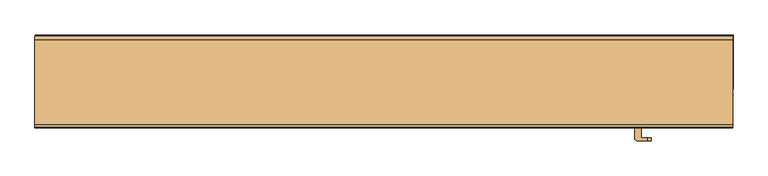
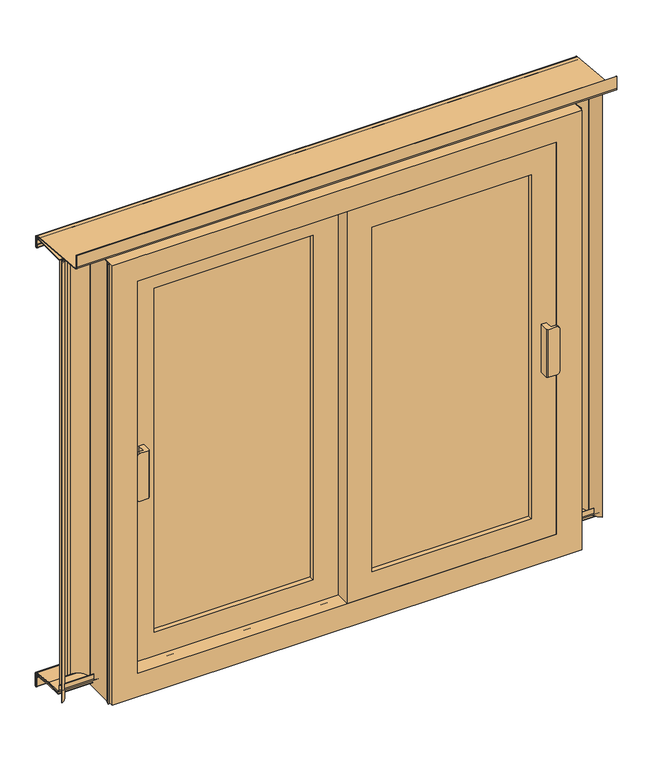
"""IFC4 building model written with IfcOpenShell, lengths in millimetres: door geometry, Fenetre pour Tenda V : Fenetre pour Tenda V."""

from ifc_helpers import new_model, si_unit, point, frame, frame_2d, origin, origin_with_axes, place, context, project, spatial, polyline, circle_curve, trimmed, segment, composite_curve, outline, extrude, faceted_brep, source, transform, mapped, element, save
from ifc_brep_helpers import plane_surface, cylinder_surface, advanced_brep


def door_75d18bf7(model_context):
    return source(origin(), model_context, "Body", "SolidModel", [
        advanced_brep(
        [(385.0, -60.7721751, 400.0), (385.0, -43.2408569, 400.0), (395.0, -43.2408569, 400.0), (395.0, -58.2408569, 400.0), (404.0477825, -58.2408569, 400.0), (404.0477825, -63.2408569, 400.0), (387.4686818, -63.2408569, 400.0), (385.0, -60.7721751, 500.0), (387.4686818, -63.2408569, 500.0), (404.0477825, -63.2408569, 500.0), (404.0477825, -58.2408569, 500.0), (395.0, -58.2408569, 500.0), (395.0, -43.2408569, 500.0), (385.0, -43.2408569, 500.0), (410.0, -58.2408569, 494.0477825), (410.0, -58.2408569, 405.9522175), (410.0, -63.2408569, 494.0477825), (410.0, -63.2408569, 405.9522175)],
        [
            (0, 1),
            (1, 2),
            (2, 3),
            (3, 4),
            (4, 5),
            (5, 6),
            (6, 0),
            (7, 8),
            (8, 9),
            (9, 10),
            (10, 11),
            (11, 12),
            (12, 13),
            (13, 7),
            (0, 7),
            (13, 1),
            (12, 2),
            (11, 3),
            (10, 14, circle_curve(frame((404.0477825, -58.2408569, 494.0477825), z_axis=(0.0, 1.0, 0.0), x_axis=(1.0, 0.0, 0.0)), 5.9522175)),
            (14, 15),
            (15, 4, circle_curve(frame((404.0477825, -58.2408569, 405.9522175), z_axis=(0.0, 1.0, 0.0), x_axis=(1.0, 0.0, 0.0)), 5.9522175)),
            (14, 16),
            (16, 17),
            (17, 15),
            (8, 6),
            (5, 17, circle_curve(frame((404.0477825, -63.2408569, 405.9522175), z_axis=(0.0, -1.0, 0.0), x_axis=(1.0, 0.0, 0.0)), 5.9522175)),
            (16, 9, circle_curve(frame((404.0477825, -63.2408569, 494.0477825), z_axis=(0.0, -1.0, 0.0), x_axis=(1.0, 0.0, 0.0)), 5.9522175)),
        ],
        [
            plane_surface(frame((385.0, -43.2408569, 400.0), z_axis=(0.0, 0.0, -1.0), x_axis=(0.0, 1.0, 0.0))),
            plane_surface(frame((385.0, -43.2408569, 500.0), z_axis=(0.0, 0.0, 1.0), x_axis=(0.0, -1.0, 0.0))),
            plane_surface(frame((385.0, -60.7721751, 400.0), z_axis=(-1.0, 0.0, 0.0), x_axis=(0.0, 0.0, 1.0))),
            plane_surface(frame((385.0, -43.2408569, 400.0), z_axis=(0.0, 1.0, 0.0), x_axis=(0.0, 0.0, 1.0))),
            plane_surface(frame((395.0, -43.2408569, 400.0), z_axis=(1.0, 0.0, 0.0), x_axis=(0.0, 0.0, 1.0))),
            plane_surface(frame((395.0, -58.2408569, 400.0), z_axis=(0.0, 1.0, 0.0), x_axis=(0.0, 0.0, 1.0))),
            plane_surface(frame((410.0, -58.2408569, 400.0), z_axis=(1.0, 0.0, 0.0), x_axis=(0.0, 0.0, 1.0))),
            plane_surface(frame((410.0, -63.2408569, 400.0), z_axis=(0.0, -1.0, 0.0), x_axis=(0.0, 0.0, 1.0))),
            plane_surface(frame((387.4686818, -63.2408569, 400.0), z_axis=(-0.7071067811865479, -0.7071067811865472, 0.0), x_axis=(0.0, 0.0, 1.0))),
            cylinder_surface(frame((404.0477825, -58.2408569, 494.0477825), z_axis=(0.0, 1.0, 0.0), x_axis=(1.0, 0.0, 0.0)), 5.9522175),
            cylinder_surface(frame((404.0477825, -58.2408569, 405.9522175), z_axis=(0.0, 1.0, 0.0), x_axis=(1.0, 0.0, 0.0)), 5.9522175),
        ],
        [
            (0, [[1, 2, 3, 4, 5, 6, 7]]),
            (1, [[8, 9, 10, 11, 12, 13, 14]]),
            (2, [[-1, 15, -14, 16]]),
            (3, [[-2, -16, -13, 17]]),
            (4, [[-3, -17, -12, 18]]),
            (5, [[-18, -11, 19, 20, 21, -4]]),
            (6, [[-20, 22, 23, 24]]),
            (7, [[25, -6, 26, -23, 27, -9]]),
            (8, [[-7, -25, -8, -15]]),
            (9, [[-10, -27, -22, -19]]),
            (10, [[-5, -21, -24, -26]]),
        ],
    ),
        advanced_brep(
        [(-385.0, -30.7721751, 400.0), (-387.4686818, -33.2408569, 400.0), (-404.0477825, -33.2408569, 400.0), (-404.0477825, -28.2408569, 400.0), (-395.0, -28.2408569, 400.0), (-395.0, -13.2408569, 400.0), (-385.0, -13.2408569, 400.0), (-385.0, -30.7721751, 500.0), (-385.0, -13.2408569, 500.0), (-395.0, -13.2408569, 500.0), (-395.0, -28.2408569, 500.0), (-404.0477825, -28.2408569, 500.0), (-404.0477825, -33.2408569, 500.0), (-387.4686818, -33.2408569, 500.0), (-410.0, -28.2408569, 405.9522175), (-410.0, -28.2408569, 494.0477825), (-410.0, -33.2408569, 405.9522175), (-410.0, -33.2408569, 494.0477825)],
        [
            (0, 1),
            (1, 2),
            (2, 3),
            (3, 4),
            (4, 5),
            (5, 6),
            (6, 0),
            (7, 8),
            (8, 9),
            (9, 10),
            (10, 11),
            (11, 12),
            (12, 13),
            (13, 7),
            (6, 8),
            (7, 0),
            (5, 9),
            (4, 10),
            (3, 14, circle_curve(frame((-404.0477825, -28.2408569, 405.9522175), z_axis=(0.0, 1.0, 0.0), x_axis=(-1.0, 0.0, 0.0)), 5.9522175)),
            (14, 15),
            (15, 11, circle_curve(frame((-404.0477825, -28.2408569, 494.0477825), z_axis=(0.0, 1.0, 0.0), x_axis=(-1.0, 0.0, 0.0)), 5.9522175)),
            (14, 16),
            (16, 17),
            (17, 15),
            (12, 17, circle_curve(frame((-404.0477825, -33.2408569, 494.0477825), z_axis=(0.0, -1.0, 0.0), x_axis=(-1.0, 0.0, 0.0)), 5.9522175)),
            (16, 2, circle_curve(frame((-404.0477825, -33.2408569, 405.9522175), z_axis=(0.0, -1.0, 0.0), x_axis=(-1.0, 0.0, 0.0)), 5.9522175)),
            (1, 13),
        ],
        [
            plane_surface(frame((-385.0, -13.2408569, 400.0), z_axis=(0.0, 0.0, -1.0), x_axis=(0.0, 1.0, 0.0))),
            plane_surface(frame((-385.0, -13.2408569, 500.0), z_axis=(0.0, 0.0, 1.0), x_axis=(0.0, -1.0, 0.0))),
            plane_surface(frame((-385.0, -30.7721751, 400.0), z_axis=(1.0, 0.0, 0.0), x_axis=(0.0, 0.0, 1.0))),
            plane_surface(frame((-385.0, -13.2408569, 400.0), z_axis=(0.0, 1.0, 0.0), x_axis=(0.0, 0.0, 1.0))),
            plane_surface(frame((-395.0, -13.2408569, 400.0), z_axis=(-1.0, 0.0, 0.0), x_axis=(0.0, 0.0, 1.0))),
            plane_surface(frame((-395.0, -28.2408569, 400.0), z_axis=(0.0, 1.0, 0.0), x_axis=(0.0, 0.0, 1.0))),
            plane_surface(frame((-410.0, -28.2408569, 400.0), z_axis=(-1.0, 0.0, 0.0), x_axis=(0.0, 0.0, 1.0))),
            plane_surface(frame((-410.0, -33.2408569, 400.0), z_axis=(0.0, -1.0, 0.0), x_axis=(0.0, 0.0, 1.0))),
            plane_surface(frame((-387.4686818, -33.2408569, 400.0), z_axis=(0.7071067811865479, -0.7071067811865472, 0.0), x_axis=(0.0, 0.0, 1.0))),
            cylinder_surface(frame((-404.0477825, -28.2408569, 494.0477825), z_axis=(0.0, 1.0, 0.0), x_axis=(-1.0, 0.0, 0.0)), 5.9522175),
            cylinder_surface(frame((-404.0477825, -28.2408569, 405.9522175), z_axis=(0.0, 1.0, 0.0), x_axis=(-1.0, 0.0, 0.0)), 5.9522175),
        ],
        [
            (0, [[1, 2, 3, 4, 5, 6, 7]]),
            (1, [[8, 9, 10, 11, 12, 13, 14]]),
            (2, [[15, -8, 16, -7]]),
            (3, [[17, -9, -15, -6]]),
            (4, [[18, -10, -17, -5]]),
            (5, [[-4, 19, 20, 21, -11, -18]]),
            (6, [[22, 23, 24, -20]]),
            (7, [[-13, 25, -23, 26, -2, 27]]),
            (8, [[-16, -14, -27, -1]]),
            (9, [[-21, -24, -25, -12]]),
            (10, [[-26, -22, -19, -3]]),
        ],
    ),
        faceted_brep([(-405.0, 16.7591431, 860.0), (-405.0, 26.7591431, 860.0), (405.0, 26.7591431, 860.0), (405.0, 16.7591431, 860.0), (-415.0, -43.2408569, 870.0), (-415.0, 16.7591431, 870.0), (415.0, 16.7591431, 870.0), (415.0, -43.2408569, 870.0), (-465.0, 26.7591431, 920.0), (-465.0, -43.2408569, 920.0), (465.0, -43.2408569, 920.0), (465.0, 26.7591431, 920.0), (405.0, 26.7591431, 60.0), (405.0, 16.7591431, 60.0), (415.0, 16.7591431, 50.0), (415.0, -43.2408569, 50.0), (465.0, -43.2408569, 0.0), (465.0, 26.7591431, 0.0), (-405.0, 26.7591431, 60.0), (-405.0, 16.7591431, 60.0), (-415.0, 16.7591431, 50.0), (-415.0, -43.2408569, 50.0), (-465.0, -43.2408569, 0.0), (-465.0, 26.7591431, 0.0)], [[[0, 1, 2, 3]], [[4, 5, 6, 7]], [[8, 9, 10, 11]], [[3, 2, 12, 13]], [[7, 6, 14, 15]], [[11, 10, 16, 17]], [[13, 12, 18, 19]], [[15, 14, 20, 21]], [[17, 16, 22, 23]], [[11, 17, 23, 8], [1, 18, 12, 2]], [[19, 18, 1, 0]], [[5, 20, 14, 6], [3, 13, 19, 0]], [[21, 20, 5, 4]], [[9, 22, 16, 10], [7, 15, 21, 4]], [[23, 22, 9, 8]]]),
        extrude(outline(polyline([(870.0, -415.0), (50.0, -415.0), (50.0, 0.0), (870.0, 0.0), (870.0, -415.0)]), holes=[polyline([(820.0, -50.0), (100.0, -50.0), (100.0, -365.0), (820.0, -365.0), (820.0, -50.0)])]), frame((0.0, -13.2408569, 0.0), z_axis=(0.0, 1.0, 0.0), x_axis=(0.0, 0.0, 1.0)), (0.0, 0.0, 1.0), 30.0),
        extrude(outline(polyline([(-365.0, 7.7591431), (-50.0, 7.7591431), (-50.0, -4.2408569), (-365.0, -4.2408569), (-365.0, 7.7591431)])), frame((0.0, 0.0, 100.0), z_axis=(0.0, 0.0, 1.0), x_axis=(1.0, 0.0, 0.0)), (0.0, 0.0, 1.0), 720.0),
        extrude(outline(polyline([(50.0, 415.0), (870.0, 415.0), (870.0, 0.0), (50.0, 0.0), (50.0, 415.0)]), holes=[polyline([(100.0, 50.0), (820.0, 50.0), (820.0, 365.0), (100.0, 365.0), (100.0, 50.0)])]), frame((0.0, -43.2408569, 0.0), z_axis=(0.0, 1.0, 0.0), x_axis=(0.0, 0.0, 1.0)), (0.0, 0.0, 1.0), 30.0),
        extrude(outline(polyline([(50.0, -22.2408569), (365.0, -22.2408569), (365.0, -34.2408569), (50.0, -34.2408569), (50.0, -22.2408569)])), frame((0.0, 0.0, 100.0), z_axis=(0.0, 0.0, 1.0), x_axis=(1.0, 0.0, 0.0)), (0.0, 0.0, 1.0), 720.0),
        extrude(outline(composite_curve([segment(trimmed(circle_curve(frame_2d((91.742772, 919.5442288)), 5.75), [point((92.2439175, 925.2723483))], [point((97.492772, 919.5442288))], False, "CARTESIAN"), True, "CONTINUOUS"), segment(polyline([(97.492772, 919.5442288), (97.492772, 902.0809)]), True, "CONTINUOUS"), segment(trimmed(circle_curve(frame_2d((94.492772, 902.0809)), 3.0), [point((97.492772, 902.0809))], [point((91.492772, 902.0809))], False, "CARTESIAN"), True, "CONTINUOUS"), segment(polyline([(91.492772, 902.0809), (91.492772, 907.0809), (92.492772, 907.0809), (92.492772, 902.0809)]), True, "CONTINUOUS"), segment(trimmed(circle_curve(frame_2d((94.492772, 902.0809)), 2.0), [point((92.492772, 902.0809))], [point((96.492772, 902.0809))], True, "CARTESIAN"), True, "CONTINUOUS"), segment(polyline([(96.492772, 902.0809), (96.492772, 919.315146)]), True, "CONTINUOUS"), segment(trimmed(circle_curve(frame_2d((91.492772, 919.315146)), 5.0), [point((96.492772, 919.315146))], [point((91.9285507, 924.2961195))], True, "CARTESIAN"), True, "CONTINUOUS"), segment(polyline([(91.9285507, 924.2961195), (-37.9920024, 935.6626951)]), True, "CONTINUOUS"), segment(trimmed(circle_curve(frame_2d((-37.4908569, 941.3908146)), 5.75), [point((-37.9920024, 935.6626951))], [point((-43.2408569, 941.3908146))], False, "CARTESIAN"), True, "CONTINUOUS"), segment(polyline([(-43.2408569, 941.3908146), (-43.2408569, 966.1633549), (-42.2408569, 966.1633549), (-42.2408569, 941.6198974)]), True, "CONTINUOUS"), segment(trimmed(circle_curve(frame_2d((-37.2408569, 941.6198974)), 5.0), [point((-42.2408569, 941.6198974))], [point((-37.6766356, 936.6389239))], True, "CARTESIAN"), True, "CONTINUOUS"), segment(polyline([(-37.6766356, 936.6389239), (92.2439175, 925.2723483)]), True, "CONTINUOUS")], self_intersect=False)), frame((-535.4992145, 0.0, 0.0), z_axis=(1.0, 0.0, 0.0), x_axis=(0.0, 1.0, 0.0)), (0.0, 0.0, 1.0), 1070.5301791),
        extrude(outline(composite_curve([segment(trimmed(circle_curve(frame_2d((89.242772, 915.25)), 5.75), [point((89.242772, 921.0))], [point((94.992772, 915.25))], False, "CARTESIAN"), True, "CONTINUOUS"), segment(polyline([(94.992772, 915.25), (94.992772, 905.0), (93.992772, 905.0), (93.992772, 915.0)]), True, "CONTINUOUS"), segment(trimmed(circle_curve(frame_2d((88.992772, 915.0)), 5.0), [point((93.992772, 915.0))], [point((88.992772, 920.0))], True, "CARTESIAN"), True, "CONTINUOUS"), segment(polyline([(88.992772, 920.0), (16.7591431, 920.0), (16.7591431, 921.0), (89.242772, 921.0)]), True, "CONTINUOUS")], self_intersect=False)), frame((-535.4992145, 0.0, 0.0), z_axis=(1.0, 0.0, 0.0), x_axis=(0.0, 1.0, 0.0)), (0.0, 0.0, 1.0), 1070.5301791),
        extrude(outline(composite_curve([segment(polyline([(-465.0, 31.7591431), (-465.0, 30.0166386), (-465.0, -26.7620699), (-467.6384309, -36.6088282), (-468.6043568, -36.3500091), (-466.0, -26.6304174), (-466.0, 30.0166386), (-466.0, 31.7591431)]), True, "CONTINUOUS"), segment(trimmed(circle_curve(frame_2d((-490.0, 31.7591431)), 24.0), [point((-466.0, 31.7591431))], [point((-490.0, 55.7591431))], True, "CARTESIAN"), True, "CONTINUOUS"), segment(polyline([(-490.0, 55.7591431), (-497.2054608, 55.7591431)]), True, "CONTINUOUS"), segment(trimmed(circle_curve(frame_2d((-497.2054608, 31.7591431)), 24.0), [point((-497.2054608, 55.7591431))], [point((-521.2054608, 31.7591431))], True, "CARTESIAN"), True, "CONTINUOUS"), segment(polyline([(-521.2054608, 31.7591431), (-521.2054608, 29.7379301)]), True, "CONTINUOUS"), segment(trimmed(circle_curve(frame_2d((-547.2054608, 29.7379301)), 26.0), [point((-521.2054608, 29.7379301))], [point((-535.0309646, 6.7644313))], False, "CARTESIAN"), True, "CONTINUOUS"), segment(polyline([(-535.0309646, 6.7644313), (-535.4992145, 7.6480275)]), True, "CONTINUOUS"), segment(trimmed(circle_curve(frame_2d((-547.2054608, 29.7379301)), 25.0), [point((-535.4992145, 7.6480275))], [point((-522.2054608, 29.7379301))], True, "CARTESIAN"), True, "CONTINUOUS"), segment(polyline([(-522.2054608, 29.7379301), (-522.2054608, 31.7591431)]), True, "CONTINUOUS"), segment(trimmed(circle_curve(frame_2d((-497.2054608, 31.7591431)), 25.0), [point((-522.2054608, 31.7591431))], [point((-497.2054608, 56.7591431))], False, "CARTESIAN"), True, "CONTINUOUS"), segment(polyline([(-497.2054608, 56.7591431), (-490.0, 56.7591431)]), True, "CONTINUOUS"), segment(trimmed(circle_curve(frame_2d((-490.0, 31.7591431)), 25.0), [point((-490.0, 56.7591431))], [point((-465.0, 31.7591431))], False, "CARTESIAN"), True, "CONTINUOUS")], self_intersect=False)), origin_with_axes(), (0.0, 0.0, 1.0), 920.0),
        extrude(outline(composite_curve([segment(trimmed(circle_curve(frame_2d((490.0, 31.7591431)), 25.0), [point((465.0, 31.7591431))], [point((490.0, 56.7591431))], False, "CARTESIAN"), True, "CONTINUOUS"), segment(polyline([(490.0, 56.7591431), (497.2054608, 56.7591431)]), True, "CONTINUOUS"), segment(trimmed(circle_curve(frame_2d((497.2054608, 31.7591431)), 25.0), [point((497.2054608, 56.7591431))], [point((522.2054608, 31.7591431))], False, "CARTESIAN"), True, "CONTINUOUS"), segment(polyline([(522.2054608, 31.7591431), (522.2054608, 29.7379301)]), True, "CONTINUOUS"), segment(trimmed(circle_curve(frame_2d((547.2054608, 29.7379301)), 25.0), [point((522.2054608, 29.7379301))], [point((535.4992145, 7.6480275))], True, "CARTESIAN"), True, "CONTINUOUS"), segment(polyline([(535.4992145, 7.6480275), (535.0309646, 6.7644313)]), True, "CONTINUOUS"), segment(trimmed(circle_curve(frame_2d((547.2054608, 29.7379301)), 26.0), [point((535.0309646, 6.7644313))], [point((521.2054608, 29.7379301))], False, "CARTESIAN"), True, "CONTINUOUS"), segment(polyline([(521.2054608, 29.7379301), (521.2054608, 31.7591431)]), True, "CONTINUOUS"), segment(trimmed(circle_curve(frame_2d((497.2054608, 31.7591431)), 24.0), [point((521.2054608, 31.7591431))], [point((497.2054608, 55.7591431))], True, "CARTESIAN"), True, "CONTINUOUS"), segment(polyline([(497.2054608, 55.7591431), (490.0, 55.7591431)]), True, "CONTINUOUS"), segment(trimmed(circle_curve(frame_2d((490.0, 31.7591431)), 24.0), [point((490.0, 55.7591431))], [point((466.0, 31.7591431))], True, "CARTESIAN"), True, "CONTINUOUS"), segment(polyline([(466.0, 31.7591431), (466.0, -26.6304174), (468.6043568, -36.3500091), (467.6384309, -36.6088282), (465.0, -26.7620699), (465.0, 31.7591431)]), True, "CONTINUOUS")], self_intersect=False)), frame((0.0, 0.0, 13.8493885), z_axis=(0.0, 0.0, 1.0), x_axis=(1.0, 0.0, 0.0)), (0.0, 0.0, 1.0), 906.1506115),
        extrude(outline(composite_curve([segment(trimmed(circle_curve(frame_2d((22.5091431, 19.5993885)), 5.75), [point((22.5091431, 13.8493885))], [point((16.7591431, 19.5993885))], False, "CARTESIAN"), True, "CONTINUOUS"), segment(polyline([(16.7591431, 19.5993885), (16.7591431, 29.7657197), (17.7591431, 29.7657197), (17.7591431, 19.7657197)]), True, "CONTINUOUS"), segment(trimmed(circle_curve(frame_2d((22.7591431, 19.7657197)), 5.0), [point((17.7591431, 19.7657197))], [point((22.7591431, 14.7657197))], True, "CARTESIAN"), True, "CONTINUOUS"), segment(polyline([(22.7591431, 14.7657197), (53.6757766, 14.7657197), (94.8343667, 9.6057488)]), True, "CONTINUOUS"), segment(trimmed(circle_curve(frame_2d((94.1190997, 3.9004098)), 5.75), [point((94.8343667, 9.6057488))], [point((99.8690997, 3.9004098))], False, "CARTESIAN"), True, "CONTINUOUS"), segment(polyline([(99.8690997, 3.9004098), (99.8690997, -18.5280564)]), True, "CONTINUOUS"), segment(trimmed(circle_curve(frame_2d((97.3690997, -18.5254444)), 2.5000014), [point((99.8690997, -18.5280564))], [point((94.8690997, -18.5280564))], False, "CARTESIAN"), True, "CONTINUOUS"), segment(polyline([(94.8690997, -18.5280564), (94.8690997, -1.0254457), (95.8690997, -1.0254457), (95.8690997, -18.5280564)]), True, "CONTINUOUS"), segment(trimmed(circle_curve(frame_2d((97.3690997, -18.5571543)), 1.5002822), [point((95.8690997, -18.5280564))], [point((98.8690997, -18.5280564))], True, "CARTESIAN"), True, "CONTINUOUS"), segment(polyline([(98.8690997, -18.5280564), (98.8690997, 3.6459235)]), True, "CONTINUOUS"), segment(trimmed(circle_curve(frame_2d((93.8690997, 3.6459235)), 5.0), [point((98.8690997, 3.6459235))], [point((94.491071, 8.6070879))], True, "CARTESIAN"), True, "CONTINUOUS"), segment(polyline([(94.491071, 8.6070879), (52.6757766, 13.8493885), (22.5091431, 13.8493885)]), True, "CONTINUOUS")], self_intersect=False)), frame((-535.0309646, 0.0, 0.0), z_axis=(1.0, 0.0, 0.0), x_axis=(0.0, 1.0, 0.0)), (0.0, 0.0, 1.0), 1070.5301791),
        extrude(outline(composite_curve([segment(trimmed(circle_curve(frame_2d((92.2656457, -0.5602154)), 5.75), [point((92.9885508, 5.1441609))], [point((98.0156457, -0.5602154))], False, "CARTESIAN"), True, "CONTINUOUS"), segment(polyline([(98.0156457, -0.5602154), (98.0156457, -18.7572246), (97.0156457, -18.7572246), (97.0156457, -0.8155942)]), True, "CONTINUOUS"), segment(trimmed(circle_curve(frame_2d((92.0156457, -0.8155942)), 5.0), [point((97.0156457, -0.8155942))], [point((92.6442588, 4.144733))], True, "CARTESIAN"), True, "CONTINUOUS"), segment(polyline([(92.6442588, 4.144733), (52.4234998, 9.2418357), (20.0166386, 9.2418357), (20.0166386, 10.1581669), (53.4234998, 10.1581669), (92.9885508, 5.1441609)]), True, "CONTINUOUS")], self_intersect=False)), frame((-535.0309646, 0.0, 0.0), z_axis=(1.0, 0.0, 0.0), x_axis=(0.0, 1.0, 0.0)), (0.0, 0.0, 1.0), 1070.5301791),
    ])


if __name__ == "__main__":
    model = new_model("IFC4")
    model_context = context("Model", 3, world=origin())
    ifc_project = project(units=[si_unit("LENGTHUNIT", "METRE", prefix="MILLI")], contexts=[model_context])
    site = spatial("IfcSite", under=ifc_project)
    building = spatial("IfcBuilding", under=site)
    placement = place(None, origin())
    door_shape = door_75d18bf7(model_context)
    element("IfcDoor", 1, ObjectType="Fenetre pour Tenda V : Fenetre pour Tenda V", at=placement, inside=building, context=model_context, shape_type="MappedRepresentation", body=[
        mapped(door_shape, transform((0.0, 0.0, 0.0), x_axis=(1.0, 0.0, 0.0), y_axis=(0.0, 1.0, 0.0), z_axis=(0.0, 0.0, 1.0))),
    ])
    save(model, "model.ifc")
